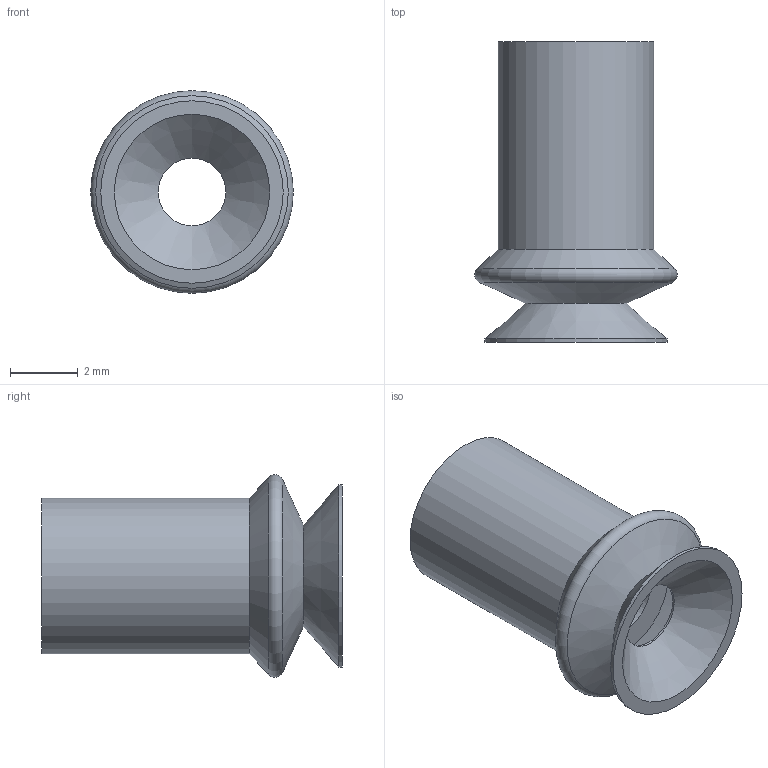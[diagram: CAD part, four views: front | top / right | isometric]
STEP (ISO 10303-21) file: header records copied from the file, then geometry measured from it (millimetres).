
FILE_DESCRIPTION (( 'STEP AP214' ), '1' );
FILE_NAME ('1413.STEP', '2023-08-17T14:51:45', ( '' ), ( '' ), 'SwSTEP 2.0', 'SolidWorks 2022', '' );
FILE_SCHEMA (( 'AUTOMOTIVE_DESIGN' ));
Length unit declared in the file: millimetre
Products named in the file (1): 1413
Bounding box: 6 x 8.9 x 6 mm (x, y, z)
Volume: 109 mm3; surface area: 278.9 mm2
Topology: 1 solids, 1 shells, 15 faces, 27 edges, 15 vertices
Faces by surface type: cone 6, cylinder 4, plane 3, torus 2
Full cylindrical faces by diameter (mm): 2 x2, 4.6 x1, 5.4 x1
Entity records: 342 total; most frequent: DIRECTION 62, CARTESIAN_POINT 46, AXIS2_PLACEMENT_3D 31, ORIENTED_EDGE 30, EDGE_LOOP 30, FACE_OUTER_BOUND 21, ADVANCED_FACE 15, EDGE_CURVE 15
